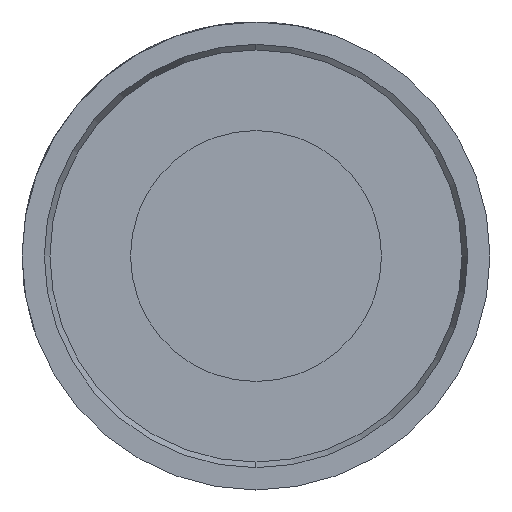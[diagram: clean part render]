
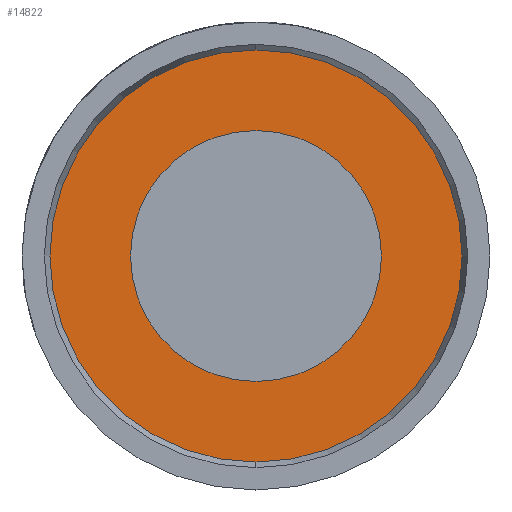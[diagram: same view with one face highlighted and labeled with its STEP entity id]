
A CAD part, left-side view. The second image highlights one B-rep face of the part: STEP entity #14822.
In plain terms, the highlighted planar face has unit normal (-1, 0, 0).
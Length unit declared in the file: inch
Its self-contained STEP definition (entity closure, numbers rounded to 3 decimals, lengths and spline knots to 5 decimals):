
#401 = VERTEX_POINT ( 'NONE', #2864 ) ;
#594 = DIRECTION ( 'NONE',  ( -1., 0., 0. ) ) ;
#817 = CARTESIAN_POINT ( 'NONE',  ( 0., 0., 0. ) ) ;
#918 = CARTESIAN_POINT ( 'NONE',  ( 0., 0., 0. ) ) ;
#935 = DIRECTION ( 'NONE',  ( 0., 0., 1. ) ) ;
#1458 = EDGE_CURVE ( 'NONE', #16024, #15644, #19353, .T. ) ;
#1478 = EDGE_CURVE ( 'NONE', #15644, #16024, #3660, .T. ) ;
#1632 = FACE_BOUND ( 'NONE', #5882, .T. ) ;
#1690 = AXIS2_PLACEMENT_3D ( 'NONE', #6491, #4734, #3512 ) ;
#2109 = CARTESIAN_POINT ( 'NONE',  ( 0., 0., 0. ) ) ;
#2804 = CARTESIAN_POINT ( 'NONE',  ( 0., 0., 0. ) ) ;
#2864 = CARTESIAN_POINT ( 'NONE',  ( 0., 0., 0.055 ) ) ;
#3512 = DIRECTION ( 'NONE',  ( 0., 0., -1. ) ) ;
#3660 = CIRCLE ( 'NONE', #17962, 0.0335 ) ;
#4734 = DIRECTION ( 'NONE',  ( 1., 0., 0. ) ) ;
#5657 = DIRECTION ( 'NONE',  ( 0., 0., 1. ) ) ;
#5770 = AXIS2_PLACEMENT_3D ( 'NONE', #918, #594, #15798 ) ;
#5882 = EDGE_LOOP ( 'NONE', ( #8065, #7909 ) ) ;
#5978 = CIRCLE ( 'NONE', #8069, 0.055 ) ;
#6491 = CARTESIAN_POINT ( 'NONE',  ( 0., 0., 0. ) ) ;
#6858 = ORIENTED_EDGE ( 'NONE', *, *, #7150, .T. ) ;
#7150 = EDGE_CURVE ( 'NONE', #12069, #401, #15685, .T. ) ;
#7909 = ORIENTED_EDGE ( 'NONE', *, *, #1478, .F. ) ;
#8065 = ORIENTED_EDGE ( 'NONE', *, *, #1458, .F. ) ;
#8069 = AXIS2_PLACEMENT_3D ( 'NONE', #2109, #19804, #16107 ) ;
#8372 = AXIS2_PLACEMENT_3D ( 'NONE', #2804, #9493, #935 ) ;
#8979 = EDGE_LOOP ( 'NONE', ( #19463, #6858 ) ) ;
#9493 = DIRECTION ( 'NONE',  ( -1., 0., 0. ) ) ;
#12069 = VERTEX_POINT ( 'NONE', #13719 ) ;
#13172 = FACE_OUTER_BOUND ( 'NONE', #8979, .T. ) ;
#13719 = CARTESIAN_POINT ( 'NONE',  ( 0., 0., -0.055 ) ) ;
#13886 = CARTESIAN_POINT ( 'NONE',  ( 0., 0., 0.0335 ) ) ;
#14691 = CARTESIAN_POINT ( 'NONE',  ( 0., 0., -0.0335 ) ) ;
#14822 = ADVANCED_FACE ( 'NONE', ( #1632, #13172 ), #19899, .F. ) ;
#15644 = VERTEX_POINT ( 'NONE', #14691 ) ;
#15685 = CIRCLE ( 'NONE', #8372, 0.055 ) ;
#15798 = DIRECTION ( 'NONE',  ( 0., 0., 1. ) ) ;
#16024 = VERTEX_POINT ( 'NONE', #13886 ) ;
#16107 = DIRECTION ( 'NONE',  ( 0., 0., 1. ) ) ;
#17231 = DIRECTION ( 'NONE',  ( -1., 0., 0. ) ) ;
#17962 = AXIS2_PLACEMENT_3D ( 'NONE', #817, #17231, #5657 ) ;
#19353 = CIRCLE ( 'NONE', #5770, 0.0335 ) ;
#19463 = ORIENTED_EDGE ( 'NONE', *, *, #20403, .T. ) ;
#19804 = DIRECTION ( 'NONE',  ( -1., 0., 0. ) ) ;
#19899 = PLANE ( 'NONE',  #1690 ) ;
#20403 = EDGE_CURVE ( 'NONE', #401, #12069, #5978, .T. ) ;
